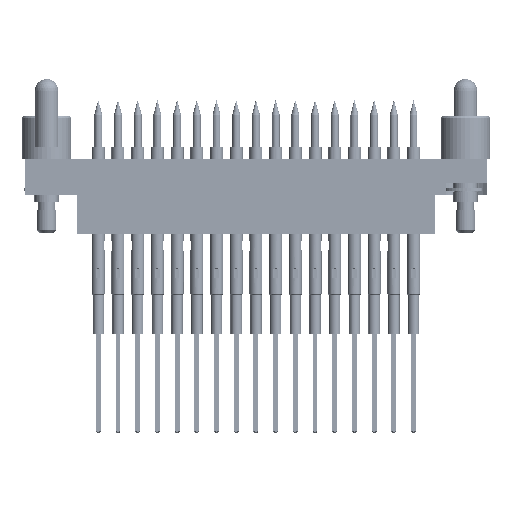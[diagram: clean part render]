
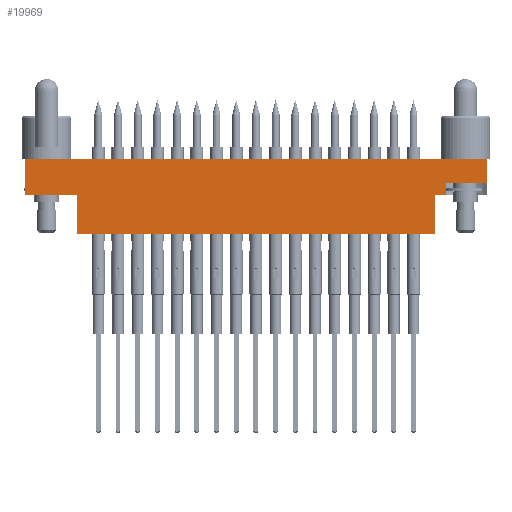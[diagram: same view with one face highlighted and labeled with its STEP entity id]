
A CAD part, left-side view. The second image highlights one B-rep face of the part: STEP entity #19969.
In plain terms, the highlighted planar face has unit normal (-1, 0, 0).
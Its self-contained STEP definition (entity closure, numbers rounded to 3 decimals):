
#329 = FACE_OUTER_BOUND ( 'NONE', #9856, .T. ) ;
#466 = ORIENTED_EDGE ( 'NONE', *, *, #19343, .T. ) ;
#679 = ORIENTED_EDGE ( 'NONE', *, *, #36401, .T. ) ;
#742 = CARTESIAN_POINT ( 'NONE',  ( 0., 0., -3.175 ) ) ;
#920 = CARTESIAN_POINT ( 'NONE',  ( 0., 59.563, -4.699 ) ) ;
#1102 = CARTESIAN_POINT ( 'NONE',  ( 0., 0., -9.652 ) ) ;
#2211 = EDGE_CURVE ( 'NONE', #26437, #31672, #34939, .T. ) ;
#2876 = ORIENTED_EDGE ( 'NONE', *, *, #14403, .T. ) ;
#3085 = DIRECTION ( 'NONE',  ( 0., 0., 1. ) ) ;
#3577 = CARTESIAN_POINT ( 'NONE',  ( 0., 52.832, -9.652 ) ) ;
#3835 = DIRECTION ( 'NONE',  ( 0., -1., 0. ) ) ;
#4198 = DIRECTION ( 'NONE',  ( 0., 0., 1. ) ) ;
#5163 = VECTOR ( 'NONE', #3835, 1000. ) ;
#5438 = LINE ( 'NONE', #16233, #21767 ) ;
#5895 = CARTESIAN_POINT ( 'NONE',  ( 0., 0., -3.175 ) ) ;
#6201 = CARTESIAN_POINT ( 'NONE',  ( 0., 59.563, -9.652 ) ) ;
#6808 = DIRECTION ( 'NONE',  ( 0., -1., 0. ) ) ;
#6896 = CARTESIAN_POINT ( 'NONE',  ( 0., 6.731, -9.652 ) ) ;
#6916 = VECTOR ( 'NONE', #9421, 1000. ) ;
#7059 = EDGE_CURVE ( 'NONE', #24130, #21595, #37146, .T. ) ;
#8287 = VERTEX_POINT ( 'NONE', #37349 ) ;
#9421 = DIRECTION ( 'NONE',  ( 0., -1., 0. ) ) ;
#9818 = EDGE_CURVE ( 'NONE', #28859, #26437, #34212, .T. ) ;
#9856 = EDGE_LOOP ( 'NONE', ( #10102, #11114, #2876, #26211, #12304, #25277, #466, #22633, #18334, #679 ) ) ;
#10097 = PLANE ( 'NONE',  #16428 ) ;
#10102 = ORIENTED_EDGE ( 'NONE', *, *, #33865, .F. ) ;
#10636 = VERTEX_POINT ( 'NONE', #5895 ) ;
#11114 = ORIENTED_EDGE ( 'NONE', *, *, #25130, .T. ) ;
#11943 = CARTESIAN_POINT ( 'NONE',  ( 0., 5.326, -4.699 ) ) ;
#12209 = DIRECTION ( 'NONE',  ( 0., 0., 1. ) ) ;
#12304 = ORIENTED_EDGE ( 'NONE', *, *, #9818, .F. ) ;
#12621 = VECTOR ( 'NONE', #12209, 1000. ) ;
#13163 = DIRECTION ( 'NONE',  ( -1., 0., 0. ) ) ;
#13326 = LINE ( 'NONE', #742, #5163 ) ;
#13875 = VECTOR ( 'NONE', #31275, 1000. ) ;
#14403 = EDGE_CURVE ( 'NONE', #10636, #31672, #29663, .T. ) ;
#14852 = VECTOR ( 'NONE', #25747, 1000. ) ;
#15283 = CARTESIAN_POINT ( 'NONE',  ( 0., 6.731, -9.652 ) ) ;
#15719 = CARTESIAN_POINT ( 'NONE',  ( 0., 0., -9.652 ) ) ;
#15820 = EDGE_CURVE ( 'NONE', #8287, #24130, #30479, .T. ) ;
#16233 = CARTESIAN_POINT ( 'NONE',  ( 0., 5.326, -3.175 ) ) ;
#16428 = AXIS2_PLACEMENT_3D ( 'NONE', #28465, #13163, #34654 ) ;
#18334 = ORIENTED_EDGE ( 'NONE', *, *, #7059, .T. ) ;
#19021 = CARTESIAN_POINT ( 'NONE',  ( 0., 0., 0. ) ) ;
#19343 = EDGE_CURVE ( 'NONE', #21485, #8287, #22030, .T. ) ;
#19969 = ADVANCED_FACE ( 'NONE', ( #329 ), #10097, .T. ) ;
#21472 = VECTOR ( 'NONE', #4198, 1000. ) ;
#21485 = VERTEX_POINT ( 'NONE', #25376 ) ;
#21595 = VERTEX_POINT ( 'NONE', #28892 ) ;
#21767 = VECTOR ( 'NONE', #34646, 1000. ) ;
#22030 = LINE ( 'NONE', #3577, #13875 ) ;
#22633 = ORIENTED_EDGE ( 'NONE', *, *, #15820, .T. ) ;
#22675 = CARTESIAN_POINT ( 'NONE',  ( 0., 0., -4.699 ) ) ;
#23950 = LINE ( 'NONE', #22675, #14852 ) ;
#24130 = VERTEX_POINT ( 'NONE', #6896 ) ;
#24271 = LINE ( 'NONE', #33315, #38744 ) ;
#25130 = EDGE_CURVE ( 'NONE', #37730, #10636, #13326, .T. ) ;
#25277 = ORIENTED_EDGE ( 'NONE', *, *, #25958, .T. ) ;
#25376 = CARTESIAN_POINT ( 'NONE',  ( 0., 52.832, -4.699 ) ) ;
#25747 = DIRECTION ( 'NONE',  ( 0., -1., 0. ) ) ;
#25958 = EDGE_CURVE ( 'NONE', #28859, #21485, #24271, .T. ) ;
#26014 = VECTOR ( 'NONE', #3085, 1000. ) ;
#26211 = ORIENTED_EDGE ( 'NONE', *, *, #2211, .F. ) ;
#26437 = VERTEX_POINT ( 'NONE', #33148 ) ;
#26470 = CARTESIAN_POINT ( 'NONE',  ( 0., 0., 0. ) ) ;
#26746 = VECTOR ( 'NONE', #6808, 1000. ) ;
#27509 = CARTESIAN_POINT ( 'NONE',  ( 0., 5.326, -3.175 ) ) ;
#28465 = CARTESIAN_POINT ( 'NONE',  ( 0., 0., -9.652 ) ) ;
#28859 = VERTEX_POINT ( 'NONE', #920 ) ;
#28892 = CARTESIAN_POINT ( 'NONE',  ( 0., 6.731, -4.699 ) ) ;
#29663 = LINE ( 'NONE', #1102, #21472 ) ;
#30252 = DIRECTION ( 'NONE',  ( 0., -1., 0. ) ) ;
#30479 = LINE ( 'NONE', #15719, #6916 ) ;
#31275 = DIRECTION ( 'NONE',  ( 0., 0., -1. ) ) ;
#31672 = VERTEX_POINT ( 'NONE', #26470 ) ;
#33148 = CARTESIAN_POINT ( 'NONE',  ( 0., 59.563, 0. ) ) ;
#33315 = CARTESIAN_POINT ( 'NONE',  ( 0., 59.563, -4.699 ) ) ;
#33865 = EDGE_CURVE ( 'NONE', #37730, #34506, #5438, .T. ) ;
#34212 = LINE ( 'NONE', #6201, #26014 ) ;
#34506 = VERTEX_POINT ( 'NONE', #11943 ) ;
#34646 = DIRECTION ( 'NONE',  ( 0., 0., -1. ) ) ;
#34654 = DIRECTION ( 'NONE',  ( 0., 0., 1. ) ) ;
#34939 = LINE ( 'NONE', #19021, #26746 ) ;
#36401 = EDGE_CURVE ( 'NONE', #21595, #34506, #23950, .T. ) ;
#37146 = LINE ( 'NONE', #15283, #12621 ) ;
#37349 = CARTESIAN_POINT ( 'NONE',  ( 0., 52.832, -9.652 ) ) ;
#37730 = VERTEX_POINT ( 'NONE', #27509 ) ;
#38744 = VECTOR ( 'NONE', #30252, 1000. ) ;
